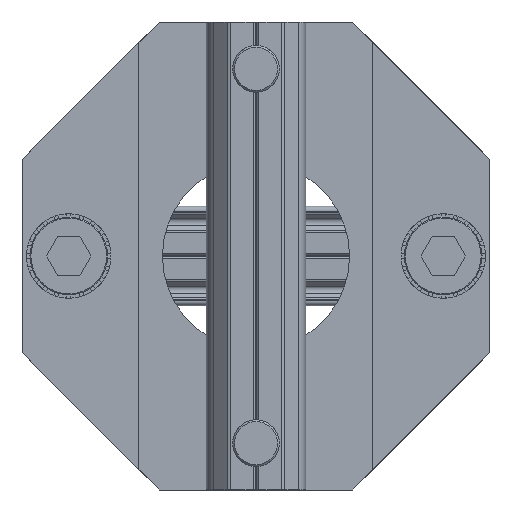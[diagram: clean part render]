
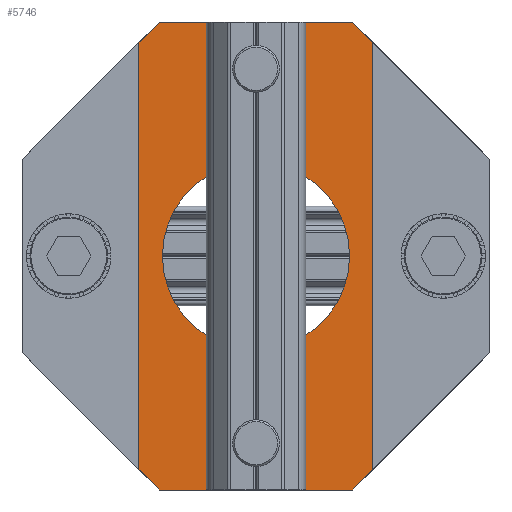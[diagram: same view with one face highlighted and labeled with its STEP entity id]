
A CAD part, front view. The second image highlights one B-rep face of the part: STEP entity #5746.
In plain terms, the highlighted planar face has unit normal (0, -1, 0).
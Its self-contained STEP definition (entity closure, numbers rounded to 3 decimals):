
#35 = CARTESIAN_POINT ( 'NONE',  ( -82.798, 34.771, 2.45 ) ) ;
#130 = LINE ( 'NONE', #5282, #3686 ) ;
#160 = EDGE_CURVE ( 'NONE', #3251, #3291, #6458, .T. ) ;
#223 = CIRCLE ( 'NONE', #3321, 2.5 ) ;
#363 = VECTOR ( 'NONE', #4592, 1000. ) ;
#587 = CARTESIAN_POINT ( 'NONE',  ( -95.298, 34.771, 47.806 ) ) ;
#752 = DIRECTION ( 'NONE',  ( 0., 0., -1. ) ) ;
#819 = DIRECTION ( 'NONE',  ( -0.707, 0., -0.707 ) ) ;
#928 = ORIENTED_EDGE ( 'NONE', *, *, #1482, .T. ) ;
#1273 = EDGE_CURVE ( 'NONE', #8431, #3208, #4951, .T. ) ;
#1347 = AXIS2_PLACEMENT_3D ( 'NONE', #4480, #6541, #8336 ) ;
#1426 = CARTESIAN_POINT ( 'NONE',  ( -84.943, 34.771, 0.306 ) ) ;
#1482 = EDGE_CURVE ( 'NONE', #5097, #9198, #3367, .T. ) ;
#1528 = DIRECTION ( 'NONE',  ( 1., 0., 0. ) ) ;
#1595 = ORIENTED_EDGE ( 'NONE', *, *, #6237, .T. ) ;
#1600 = CARTESIAN_POINT ( 'NONE',  ( -82.798, 34.771, 48.161 ) ) ;
#1642 = CARTESIAN_POINT ( 'NONE',  ( -84.943, 34.771, 0.306 ) ) ;
#1706 = VECTOR ( 'NONE', #3413, 1000. ) ;
#1815 = CARTESIAN_POINT ( 'NONE',  ( -120.298, 34.771, 14.95 ) ) ;
#1849 = VERTEX_POINT ( 'NONE', #8909 ) ;
#1970 = ORIENTED_EDGE ( 'NONE', *, *, #7443, .T. ) ;
#1977 = CIRCLE ( 'NONE', #3865, 2.5 ) ;
#2038 = VERTEX_POINT ( 'NONE', #3286 ) ;
#2190 = ORIENTED_EDGE ( 'NONE', *, *, #4283, .F. ) ;
#2316 = EDGE_CURVE ( 'NONE', #2038, #4651, #4490, .T. ) ;
#2343 = FACE_BOUND ( 'NONE', #6923, .T. ) ;
#2376 = CARTESIAN_POINT ( 'NONE',  ( -84.943, 34.771, 50.306 ) ) ;
#2448 = DIRECTION ( 'NONE',  ( 0., -1., 0. ) ) ;
#2467 = LINE ( 'NONE', #1815, #363 ) ;
#2612 = CARTESIAN_POINT ( 'NONE',  ( -84.943, 34.771, 50.306 ) ) ;
#2640 = EDGE_CURVE ( 'NONE', #9198, #4651, #130, .T. ) ;
#2643 = LINE ( 'NONE', #35, #4596 ) ;
#2746 = CARTESIAN_POINT ( 'NONE',  ( -95.298, 34.771, 15.306 ) ) ;
#2960 = CARTESIAN_POINT ( 'NONE',  ( -107.798, 34.771, 48.161 ) ) ;
#3110 = CARTESIAN_POINT ( 'NONE',  ( -95.298, 34.771, 35.306 ) ) ;
#3113 = VECTOR ( 'NONE', #1528, 1000. ) ;
#3160 = EDGE_LOOP ( 'NONE', ( #3893, #9037 ) ) ;
#3205 = CARTESIAN_POINT ( 'NONE',  ( -95.298, 34.771, 2.806 ) ) ;
#3208 = VERTEX_POINT ( 'NONE', #3205 ) ;
#3251 = VERTEX_POINT ( 'NONE', #3110 ) ;
#3286 = CARTESIAN_POINT ( 'NONE',  ( -107.798, 34.771, 2.45 ) ) ;
#3291 = VERTEX_POINT ( 'NONE', #2746 ) ;
#3304 = CARTESIAN_POINT ( 'NONE',  ( -95.298, 34.771, 45.306 ) ) ;
#3321 = AXIS2_PLACEMENT_3D ( 'NONE', #3304, #8286, #4023 ) ;
#3332 = AXIS2_PLACEMENT_3D ( 'NONE', #6241, #7949, #3637 ) ;
#3367 = LINE ( 'NONE', #2376, #1706 ) ;
#3413 = DIRECTION ( 'NONE',  ( -1., 0., 0. ) ) ;
#3512 = VERTEX_POINT ( 'NONE', #1642 ) ;
#3560 = VECTOR ( 'NONE', #7754, 1000. ) ;
#3579 = CARTESIAN_POINT ( 'NONE',  ( -95.298, 34.771, 45.306 ) ) ;
#3608 = CARTESIAN_POINT ( 'NONE',  ( -105.653, 34.771, 0.306 ) ) ;
#3637 = DIRECTION ( 'NONE',  ( 0., 0., -1. ) ) ;
#3686 = VECTOR ( 'NONE', #819, 1000. ) ;
#3712 = EDGE_LOOP ( 'NONE', ( #1970, #3878, #6181, #928, #8270, #5298, #4187, #1595 ) ) ;
#3865 = AXIS2_PLACEMENT_3D ( 'NONE', #3579, #8564, #4314 ) ;
#3878 = ORIENTED_EDGE ( 'NONE', *, *, #7446, .F. ) ;
#3893 = ORIENTED_EDGE ( 'NONE', *, *, #1273, .F. ) ;
#4023 = DIRECTION ( 'NONE',  ( 0., 0., -1. ) ) ;
#4029 = FACE_OUTER_BOUND ( 'NONE', #3712, .T. ) ;
#4114 = CARTESIAN_POINT ( 'NONE',  ( -95.298, 34.771, 25.306 ) ) ;
#4144 = DIRECTION ( 'NONE',  ( 0., -1., 0. ) ) ;
#4171 = CARTESIAN_POINT ( 'NONE',  ( -95.298, 34.771, 7.806 ) ) ;
#4187 = ORIENTED_EDGE ( 'NONE', *, *, #4209, .T. ) ;
#4209 = EDGE_CURVE ( 'NONE', #2038, #8065, #2467, .T. ) ;
#4220 = DIRECTION ( 'NONE',  ( 0., -1., 0. ) ) ;
#4283 = EDGE_CURVE ( 'NONE', #3291, #3251, #5602, .T. ) ;
#4308 = DIRECTION ( 'NONE',  ( 0.707, 0., 0.707 ) ) ;
#4314 = DIRECTION ( 'NONE',  ( 0., 0., -1. ) ) ;
#4480 = CARTESIAN_POINT ( 'NONE',  ( -95.298, 34.771, 25.306 ) ) ;
#4490 = LINE ( 'NONE', #2960, #5928 ) ;
#4549 = ORIENTED_EDGE ( 'NONE', *, *, #160, .F. ) ;
#4592 = DIRECTION ( 'NONE',  ( 0.707, 0., -0.707 ) ) ;
#4596 = VECTOR ( 'NONE', #752, 1000. ) ;
#4651 = VERTEX_POINT ( 'NONE', #6024 ) ;
#4690 = DIRECTION ( 'NONE',  ( 0., 0., -1. ) ) ;
#4925 = DIRECTION ( 'NONE',  ( 0., 0., -1. ) ) ;
#4951 = CIRCLE ( 'NONE', #3332, 2.5 ) ;
#5038 = LINE ( 'NONE', #3608, #3113 ) ;
#5069 = CARTESIAN_POINT ( 'NONE',  ( 0., 34.771, 0. ) ) ;
#5094 = CARTESIAN_POINT ( 'NONE',  ( -105.653, 34.771, 0.306 ) ) ;
#5097 = VERTEX_POINT ( 'NONE', #2612 ) ;
#5282 = CARTESIAN_POINT ( 'NONE',  ( -105.653, 34.771, 50.306 ) ) ;
#5284 = VERTEX_POINT ( 'NONE', #587 ) ;
#5298 = ORIENTED_EDGE ( 'NONE', *, *, #2316, .F. ) ;
#5569 = AXIS2_PLACEMENT_3D ( 'NONE', #4114, #4144, #4690 ) ;
#5602 = CIRCLE ( 'NONE', #5569, 10. ) ;
#5610 = CARTESIAN_POINT ( 'NONE',  ( -70.298, 34.771, 35.661 ) ) ;
#5746 = ADVANCED_FACE ( 'NONE', ( #5930, #7808, #2343, #4029 ), #6633, .T. ) ;
#5884 = DIRECTION ( 'NONE',  ( 0., 0., 1. ) ) ;
#5928 = VECTOR ( 'NONE', #5884, 1000. ) ;
#5930 = FACE_BOUND ( 'NONE', #8125, .T. ) ;
#5947 = VERTEX_POINT ( 'NONE', #9116 ) ;
#6024 = CARTESIAN_POINT ( 'NONE',  ( -107.798, 34.771, 48.161 ) ) ;
#6181 = ORIENTED_EDGE ( 'NONE', *, *, #7368, .T. ) ;
#6231 = VECTOR ( 'NONE', #4308, 1000. ) ;
#6237 = EDGE_CURVE ( 'NONE', #8065, #3512, #5038, .T. ) ;
#6241 = CARTESIAN_POINT ( 'NONE',  ( -95.298, 34.771, 5.306 ) ) ;
#6439 = ORIENTED_EDGE ( 'NONE', *, *, #6935, .F. ) ;
#6458 = CIRCLE ( 'NONE', #1347, 10. ) ;
#6495 = VERTEX_POINT ( 'NONE', #1600 ) ;
#6541 = DIRECTION ( 'NONE',  ( 0., -1., 0. ) ) ;
#6633 = PLANE ( 'NONE',  #8726 ) ;
#6733 = CARTESIAN_POINT ( 'NONE',  ( -95.298, 34.771, 5.306 ) ) ;
#6923 = EDGE_LOOP ( 'NONE', ( #2190, #4549 ) ) ;
#6935 = EDGE_CURVE ( 'NONE', #5284, #1849, #1977, .T. ) ;
#7045 = ORIENTED_EDGE ( 'NONE', *, *, #7781, .F. ) ;
#7368 = EDGE_CURVE ( 'NONE', #6495, #5097, #9012, .T. ) ;
#7443 = EDGE_CURVE ( 'NONE', #3512, #5947, #8129, .T. ) ;
#7446 = EDGE_CURVE ( 'NONE', #6495, #5947, #2643, .T. ) ;
#7456 = DIRECTION ( 'NONE',  ( 0., 0., -1. ) ) ;
#7657 = EDGE_CURVE ( 'NONE', #3208, #8431, #8672, .T. ) ;
#7754 = DIRECTION ( 'NONE',  ( -0.707, 0., 0.707 ) ) ;
#7781 = EDGE_CURVE ( 'NONE', #1849, #5284, #223, .T. ) ;
#7808 = FACE_BOUND ( 'NONE', #3160, .T. ) ;
#7949 = DIRECTION ( 'NONE',  ( 0., -1., 0. ) ) ;
#8065 = VERTEX_POINT ( 'NONE', #5094 ) ;
#8125 = EDGE_LOOP ( 'NONE', ( #6439, #7045 ) ) ;
#8129 = LINE ( 'NONE', #1426, #6231 ) ;
#8211 = CARTESIAN_POINT ( 'NONE',  ( -105.653, 34.771, 50.306 ) ) ;
#8270 = ORIENTED_EDGE ( 'NONE', *, *, #2640, .T. ) ;
#8272 = AXIS2_PLACEMENT_3D ( 'NONE', #6733, #2448, #7456 ) ;
#8286 = DIRECTION ( 'NONE',  ( 0., -1., 0. ) ) ;
#8336 = DIRECTION ( 'NONE',  ( 0., 0., -1. ) ) ;
#8431 = VERTEX_POINT ( 'NONE', #4171 ) ;
#8564 = DIRECTION ( 'NONE',  ( 0., -1., 0. ) ) ;
#8672 = CIRCLE ( 'NONE', #8272, 2.5 ) ;
#8726 = AXIS2_PLACEMENT_3D ( 'NONE', #5069, #4220, #4925 ) ;
#8909 = CARTESIAN_POINT ( 'NONE',  ( -95.298, 34.771, 42.806 ) ) ;
#9012 = LINE ( 'NONE', #5610, #3560 ) ;
#9037 = ORIENTED_EDGE ( 'NONE', *, *, #7657, .F. ) ;
#9116 = CARTESIAN_POINT ( 'NONE',  ( -82.798, 34.771, 2.45 ) ) ;
#9198 = VERTEX_POINT ( 'NONE', #8211 ) ;
